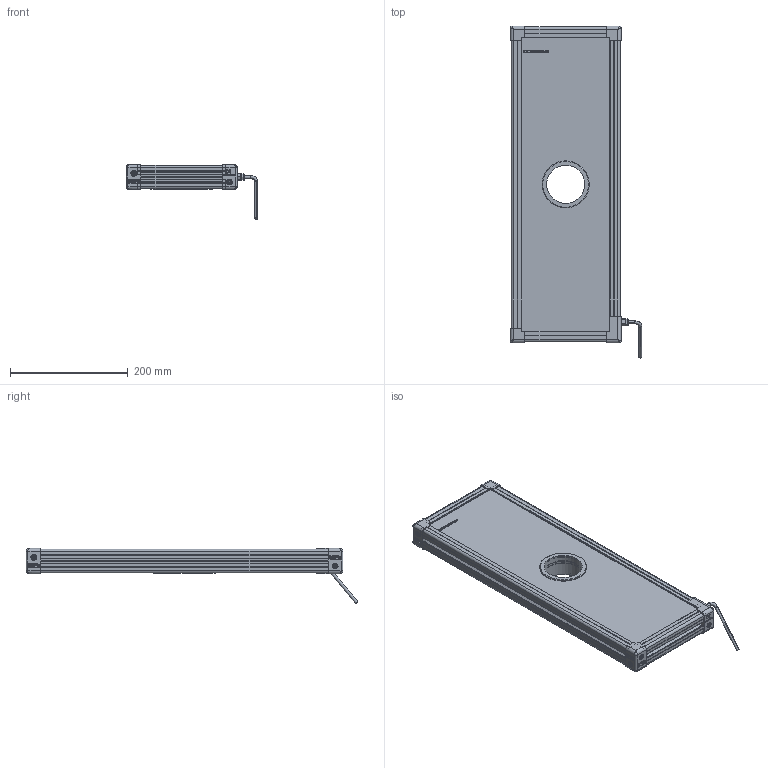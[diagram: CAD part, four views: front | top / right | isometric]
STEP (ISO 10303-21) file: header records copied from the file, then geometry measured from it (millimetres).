
FILE_DESCRIPTION (( 'STEP AP214' ), '1' );
FILE_NAME ('EFFI-FD-150-500-ZZZ-1M12.STEP', '2021-06-23T09:05:37', ( '' ), ( '' ), 'SwSTEP 2.0', 'SolidWorks 2021', '' );
FILE_SCHEMA (( 'AUTOMOTIVE_DESIGN' ));
Length unit declared in the file: millimetre
Products named in the file (13): 004409; 000590; petite joue + vis; 004408; Pièce13^EFFI-FD-XXX-YYY-ZZZ (1connecteur) Ø65; cordon_Avec cable; profile Y_PERCE; profile X_PERCE; Assemblage Ø65; 000629; grande joue; EFFI-FD-150-500-ZZZ-1M12; petite joue
Assembly tree (21 placements, depth 3):
  EFFI-FD-150-500-ZZZ-1M12
    profile X_PERCE  x2
    profile Y_PERCE  x2
    Pièce13^EFFI-FD-XXX-YYY-ZZZ (1connecteur) Ø65
    petite joue + vis  x3
      petite joue
      000629
    000629  x2
    grande joue
    Assemblage Ø65
      004408
      004409
      000590  x3
    cordon_Avec cable
Bounding box: 224.15 x 564.73 x 94.09 mm (x, y, z)
Volume: 3394023.3 mm3; surface area: 462655.2 mm2
Topology: 22 solids, 28 shells, 3845 faces, 10219 edges, 6706 vertices
Faces by surface type: plane 2372, cylinder 726, bspline 552, cone 152, torus 35, sphere 8
Entity records: 73011 total; most frequent: CARTESIAN_POINT 28463, ORIENTED_EDGE 9328, DIRECTION 7777, EDGE_CURVE 4668, VECTOR 3489, LINE 3489, VERTEX_POINT 3077, AXIS2_PLACEMENT_3D 2144
